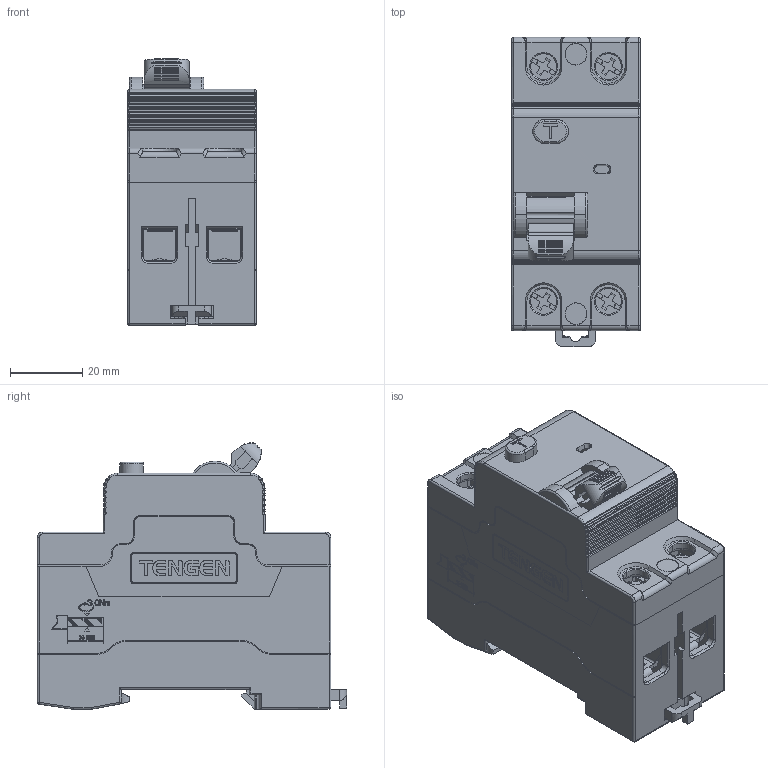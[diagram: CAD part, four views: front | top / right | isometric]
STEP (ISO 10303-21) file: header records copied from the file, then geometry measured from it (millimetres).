
FILE_DESCRIPTION (( 'STEP AP214' ), '1' );
FILE_NAME ('TGL1N-80 2P.STEP', '2025-12-12T11:55:04', ( '' ), ( '' ), 'SwSTEP 2.0', 'SolidWorks 2024', '' );
FILE_SCHEMA (( 'AUTOMOTIVE_DESIGN' ));
Length unit declared in the file: millimetre
Products named in the file (16): PRODUCT_196432_2.stp; PRODUCT_280224_2.stp; TGL1N-80 2P.stp; PRODUCT_23789_2.stp; LUOD_2.stp; __-__51_2__1.stp; __2P__RCCB-26473_1.stp; PRODUCT_245076_2.stp; TGL1N-80 2P; ___42_1.stp; PRODUCT_179084_2.stp; PRODUCT_55028_2.stp; PRODUCT_51821_ASM_2.stp; ____-___2.stp; __2P__RCCB_-_______ASM_1.stp; __-__51_1__1.stp
Assembly tree (24 placements, depth 5):
  TGL1N-80 2P
    TGL1N-80 2P.stp
      PRODUCT_51821_ASM_2.stp
        __2P__RCCB_-_______ASM_1.stp
          ___42_1.stp
          __-__51_1__1.stp
          __-__51_2__1.stp
        PRODUCT_196432_2.stp  x4
        PRODUCT_245076_2.stp
        LUOD_2.stp  x4
        ____-___2.stp
        PRODUCT_280224_2.stp
        PRODUCT_179084_2.stp  x2
        __2P__RCCB-26473_1.stp
      PRODUCT_23789_2.stp  x2
      PRODUCT_55028_2.stp  x2
Bounding box: 35.7 x 85.77 x 73.99 mm (x, y, z)
Volume: 49715.3 mm3; surface area: 64549 mm2
Topology: 21 solids, 21 shells, 3652 faces, 9802 edges, 6200 vertices
Faces by surface type: plane 2596, cylinder 733, bspline 141, torus 72, sphere 64, cone 46
Entity records: 107440 total; most frequent: CARTESIAN_POINT 29034, ORIENTED_EDGE 16852, DIRECTION 15058, EDGE_CURVE 8426, LINE 6734, VECTOR 6734, VERTEX_POINT 5440, AXIS2_PLACEMENT_3D 4162
